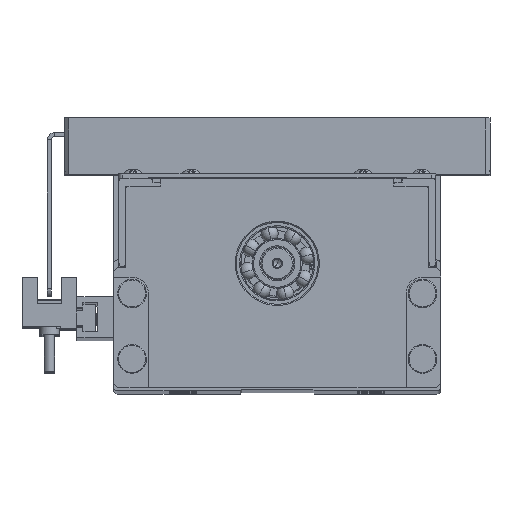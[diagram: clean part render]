
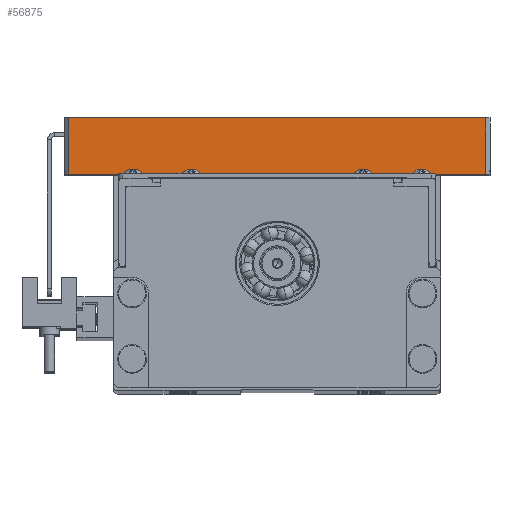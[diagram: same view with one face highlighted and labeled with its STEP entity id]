
A CAD part, top view. The second image highlights one B-rep face of the part: STEP entity #56875.
In plain terms, the highlighted planar face has unit normal (0, 0, 1).
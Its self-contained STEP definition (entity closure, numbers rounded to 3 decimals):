
#127 = FACE_OUTER_BOUND ( 'NONE', #5922, .T. ) ;
#5922 = EDGE_LOOP ( 'NONE', ( #79733, #44461, #11086, #45508 ) ) ;
#6547 = VERTEX_POINT ( 'NONE', #89992 ) ;
#11086 = ORIENTED_EDGE ( 'NONE', *, *, #89985, .F. ) ;
#13506 = CARTESIAN_POINT ( 'NONE',  ( -52., 54.3, 50. ) ) ;
#14331 = VERTEX_POINT ( 'NONE', #59297 ) ;
#17288 = VECTOR ( 'NONE', #87814, 1000. ) ;
#18687 = DIRECTION ( 'NONE',  ( 0., -1., 0. ) ) ;
#20607 = DIRECTION ( 'NONE',  ( 0., 0., 1. ) ) ;
#21056 = DIRECTION ( 'NONE',  ( 1., 0., 0. ) ) ;
#25509 = LINE ( 'NONE', #31929, #52511 ) ;
#27126 = DIRECTION ( 'NONE',  ( -1., 0., 0. ) ) ;
#27643 = CARTESIAN_POINT ( 'NONE',  ( -51., 54.3, 50. ) ) ;
#29160 = LINE ( 'NONE', #49689, #54527 ) ;
#31929 = CARTESIAN_POINT ( 'NONE',  ( -51., 54.3, 50. ) ) ;
#34431 = LINE ( 'NONE', #13506, #49517 ) ;
#35605 = EDGE_CURVE ( 'NONE', #14331, #38677, #34431, .T. ) ;
#38677 = VERTEX_POINT ( 'NONE', #27643 ) ;
#42828 = CARTESIAN_POINT ( 'NONE',  ( 51., 68., 50. ) ) ;
#44461 = ORIENTED_EDGE ( 'NONE', *, *, #67513, .T. ) ;
#45508 = ORIENTED_EDGE ( 'NONE', *, *, #81278, .T. ) ;
#49517 = VECTOR ( 'NONE', #27126, 1000. ) ;
#49689 = CARTESIAN_POINT ( 'NONE',  ( 51., 68., 50. ) ) ;
#50170 = VERTEX_POINT ( 'NONE', #42828 ) ;
#52511 = VECTOR ( 'NONE', #18687, 1000. ) ;
#54086 = CARTESIAN_POINT ( 'NONE',  ( 52., 68., 50. ) ) ;
#54527 = VECTOR ( 'NONE', #77491, 1000. ) ;
#56875 = ADVANCED_FACE ( 'NONE', ( #127 ), #76225, .T. ) ;
#59297 = CARTESIAN_POINT ( 'NONE',  ( 51., 54.3, 50. ) ) ;
#60944 = LINE ( 'NONE', #54086, #17288 ) ;
#67513 = EDGE_CURVE ( 'NONE', #14331, #50170, #29160, .T. ) ;
#68313 = AXIS2_PLACEMENT_3D ( 'NONE', #83940, #20607, #21056 ) ;
#76225 = PLANE ( 'NONE',  #68313 ) ;
#77491 = DIRECTION ( 'NONE',  ( 0., 1., 0. ) ) ;
#79733 = ORIENTED_EDGE ( 'NONE', *, *, #35605, .F. ) ;
#81278 = EDGE_CURVE ( 'NONE', #6547, #38677, #25509, .T. ) ;
#83940 = CARTESIAN_POINT ( 'NONE',  ( 0., 68., 50. ) ) ;
#87814 = DIRECTION ( 'NONE',  ( 1., 0., 0. ) ) ;
#89985 = EDGE_CURVE ( 'NONE', #6547, #50170, #60944, .T. ) ;
#89992 = CARTESIAN_POINT ( 'NONE',  ( -51., 68., 50. ) ) ;
